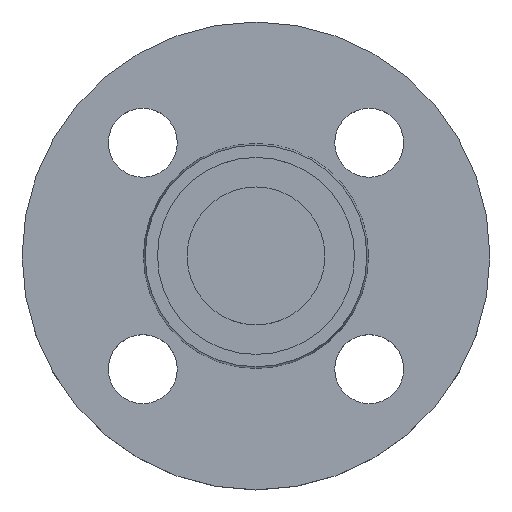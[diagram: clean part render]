
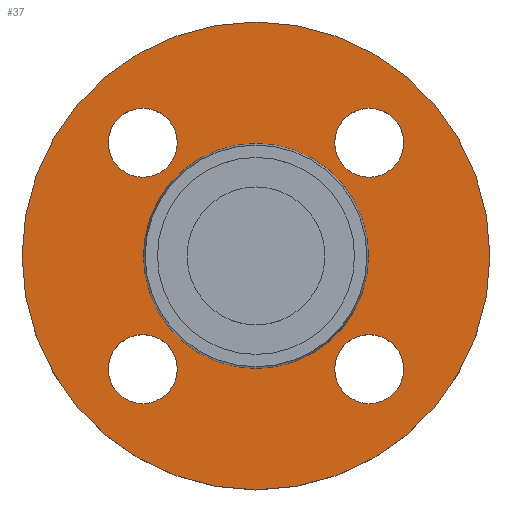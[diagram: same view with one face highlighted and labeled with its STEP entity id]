
A CAD part, top view. The second image highlights one B-rep face of the part: STEP entity #37.
In plain terms, the highlighted planar face has unit normal (0, 0, 1).
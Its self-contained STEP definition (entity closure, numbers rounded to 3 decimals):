
#8 = AXIS2_PLACEMENT_3D ( 'NONE', #130, #97, #99 ) ;
#10 = AXIS2_PLACEMENT_3D ( 'NONE', #493, #494, #495 ) ;
#20 = EDGE_CURVE ( 'NONE', #408, #382, #96, .T. ) ;
#24 = CIRCLE ( 'NONE', #59, 47.5 ) ;
#26 = EDGE_CURVE ( 'NONE', #427, #403, #64, .T. ) ;
#37 = ADVANCED_FACE ( 'NONE', ( #509, #510, #511, #512, #513, #515 ), #516, .T. ) ;
#39 = CIRCLE ( 'NONE', #662, 22.853 ) ;
#50 = AXIS2_PLACEMENT_3D ( 'NONE', #125, #126, #127 ) ;
#54 = AXIS2_PLACEMENT_3D ( 'NONE', #570, #571, #572 ) ;
#59 = AXIS2_PLACEMENT_3D ( 'NONE', #120, #122, #123 ) ;
#64 = CIRCLE ( 'NONE', #10, 7. ) ;
#66 = EDGE_CURVE ( 'NONE', #446, #305, #39, .T. ) ;
#77 = DIRECTION ( 'NONE',  ( 1., 0., 0. ) ) ;
#79 = CARTESIAN_POINT ( 'NONE',  ( -22.981, -22.981, -2. ) ) ;
#81 = DIRECTION ( 'NONE',  ( 0., 0., -1. ) ) ;
#96 = CIRCLE ( 'NONE', #121, 7. ) ;
#97 = DIRECTION ( 'NONE',  ( 0., 0., -1. ) ) ;
#99 = DIRECTION ( 'NONE',  ( 1., 0., 0. ) ) ;
#103 = AXIS2_PLACEMENT_3D ( 'NONE', #676, #303, #363 ) ;
#110 = EDGE_CURVE ( 'NONE', #429, #115, #596, .T. ) ;
#113 = AXIS2_PLACEMENT_3D ( 'NONE', #630, #631, #632 ) ;
#114 = CIRCLE ( 'NONE', #103, 7. ) ;
#115 = VERTEX_POINT ( 'NONE', #573 ) ;
#120 = CARTESIAN_POINT ( 'NONE',  ( 0., 0., -2. ) ) ;
#121 = AXIS2_PLACEMENT_3D ( 'NONE', #477, #478, #480 ) ;
#122 = DIRECTION ( 'NONE',  ( 0., 0., -1. ) ) ;
#123 = DIRECTION ( 'NONE',  ( -1., 0., 0. ) ) ;
#125 = CARTESIAN_POINT ( 'NONE',  ( 22.981, -22.981, -2. ) ) ;
#126 = DIRECTION ( 'NONE',  ( 0., 0., -1. ) ) ;
#127 = DIRECTION ( 'NONE',  ( 1., 0., 0. ) ) ;
#130 = CARTESIAN_POINT ( 'NONE',  ( -22.981, 22.981, -2. ) ) ;
#140 = EDGE_CURVE ( 'NONE', #305, #446, #148, .T. ) ;
#148 = CIRCLE ( 'NONE', #609, 22.853 ) ;
#151 = CARTESIAN_POINT ( 'NONE',  ( 15.981, 22.981, -2. ) ) ;
#165 = CARTESIAN_POINT ( 'NONE',  ( -15.981, -22.981, -2. ) ) ;
#167 = CARTESIAN_POINT ( 'NONE',  ( 29.981, 22.981, -2. ) ) ;
#172 = CARTESIAN_POINT ( 'NONE',  ( -29.981, 22.981, -2. ) ) ;
#176 = CARTESIAN_POINT ( 'NONE',  ( -29.981, -22.981, -2. ) ) ;
#177 = CARTESIAN_POINT ( 'NONE',  ( 29.981, -22.981, -2. ) ) ;
#181 = CARTESIAN_POINT ( 'NONE',  ( -15.981, 22.981, -2. ) ) ;
#182 = CARTESIAN_POINT ( 'NONE',  ( -22.981, 22.981, -2. ) ) ;
#183 = DIRECTION ( 'NONE',  ( 0., 0., -1. ) ) ;
#184 = DIRECTION ( 'NONE',  ( 1., 0., 0. ) ) ;
#202 = CARTESIAN_POINT ( 'NONE',  ( 22.853, 0., -2. ) ) ;
#242 = EDGE_CURVE ( 'NONE', #250, #264, #548, .T. ) ;
#250 = VERTEX_POINT ( 'NONE', #635 ) ;
#260 = EDGE_LOOP ( 'NONE', ( #317, #278 ) ) ;
#264 = VERTEX_POINT ( 'NONE', #645 ) ;
#278 = ORIENTED_EDGE ( 'NONE', *, *, #358, .F. ) ;
#279 = CIRCLE ( 'NONE', #50, 7. ) ;
#303 = DIRECTION ( 'NONE',  ( 0., 0., -1. ) ) ;
#305 = VERTEX_POINT ( 'NONE', #653 ) ;
#317 = ORIENTED_EDGE ( 'NONE', *, *, #242, .F. ) ;
#319 = ORIENTED_EDGE ( 'NONE', *, *, #66, .T. ) ;
#320 = ORIENTED_EDGE ( 'NONE', *, *, #140, .T. ) ;
#322 = ORIENTED_EDGE ( 'NONE', *, *, #610, .T. ) ;
#323 = ORIENTED_EDGE ( 'NONE', *, *, #20, .T. ) ;
#324 = ORIENTED_EDGE ( 'NONE', *, *, #435, .T. ) ;
#325 = ORIENTED_EDGE ( 'NONE', *, *, #663, .T. ) ;
#326 = ORIENTED_EDGE ( 'NONE', *, *, #26, .T. ) ;
#327 = ORIENTED_EDGE ( 'NONE', *, *, #468, .T. ) ;
#329 = ORIENTED_EDGE ( 'NONE', *, *, #371, .T. ) ;
#330 = ORIENTED_EDGE ( 'NONE', *, *, #110, .T. ) ;
#353 = AXIS2_PLACEMENT_3D ( 'NONE', #518, #519, #520 ) ;
#354 = AXIS2_PLACEMENT_3D ( 'NONE', #79, #81, #77 ) ;
#358 = EDGE_CURVE ( 'NONE', #264, #250, #24, .T. ) ;
#363 = DIRECTION ( 'NONE',  ( 1., 0., 0. ) ) ;
#366 = EDGE_LOOP ( 'NONE', ( #330, #329 ) ) ;
#371 = EDGE_CURVE ( 'NONE', #115, #429, #279, .T. ) ;
#382 = VERTEX_POINT ( 'NONE', #151 ) ;
#403 = VERTEX_POINT ( 'NONE', #165 ) ;
#405 = EDGE_LOOP ( 'NONE', ( #325, #324 ) ) ;
#408 = VERTEX_POINT ( 'NONE', #167 ) ;
#409 = EDGE_LOOP ( 'NONE', ( #320, #319 ) ) ;
#410 = EDGE_LOOP ( 'NONE', ( #327, #326 ) ) ;
#421 = VERTEX_POINT ( 'NONE', #172 ) ;
#426 = EDGE_LOOP ( 'NONE', ( #323, #322 ) ) ;
#427 = VERTEX_POINT ( 'NONE', #176 ) ;
#429 = VERTEX_POINT ( 'NONE', #177 ) ;
#434 = VERTEX_POINT ( 'NONE', #181 ) ;
#435 = EDGE_CURVE ( 'NONE', #421, #434, #575, .T. ) ;
#446 = VERTEX_POINT ( 'NONE', #202 ) ;
#468 = EDGE_CURVE ( 'NONE', #403, #427, #569, .T. ) ;
#477 = CARTESIAN_POINT ( 'NONE',  ( 22.981, 22.981, -2. ) ) ;
#478 = DIRECTION ( 'NONE',  ( 0., 0., -1. ) ) ;
#480 = DIRECTION ( 'NONE',  ( 1., 0., 0. ) ) ;
#493 = CARTESIAN_POINT ( 'NONE',  ( -22.981, -22.981, -2. ) ) ;
#494 = DIRECTION ( 'NONE',  ( 0., 0., -1. ) ) ;
#495 = DIRECTION ( 'NONE',  ( 1., 0., 0. ) ) ;
#507 = CIRCLE ( 'NONE', #8, 7. ) ;
#509 = FACE_BOUND ( 'NONE', #366, .T. ) ;
#510 = FACE_BOUND ( 'NONE', #410, .T. ) ;
#511 = FACE_BOUND ( 'NONE', #405, .T. ) ;
#512 = FACE_BOUND ( 'NONE', #426, .T. ) ;
#513 = FACE_BOUND ( 'NONE', #409, .T. ) ;
#515 = FACE_OUTER_BOUND ( 'NONE', #260, .T. ) ;
#516 = PLANE ( 'NONE',  #353 ) ;
#518 = CARTESIAN_POINT ( 'NONE',  ( 22.853, 0., -2. ) ) ;
#519 = DIRECTION ( 'NONE',  ( 0., 0., 1. ) ) ;
#520 = DIRECTION ( 'NONE',  ( 1., 0., 0. ) ) ;
#541 = CARTESIAN_POINT ( 'NONE',  ( 0., 0., -2. ) ) ;
#543 = DIRECTION ( 'NONE',  ( 0., 0., -1. ) ) ;
#544 = DIRECTION ( 'NONE',  ( -1., 0., 0. ) ) ;
#548 = CIRCLE ( 'NONE', #113, 47.5 ) ;
#559 = AXIS2_PLACEMENT_3D ( 'NONE', #182, #183, #184 ) ;
#569 = CIRCLE ( 'NONE', #354, 7. ) ;
#570 = CARTESIAN_POINT ( 'NONE',  ( 22.981, -22.981, -2. ) ) ;
#571 = DIRECTION ( 'NONE',  ( 0., 0., -1. ) ) ;
#572 = DIRECTION ( 'NONE',  ( 1., 0., 0. ) ) ;
#573 = CARTESIAN_POINT ( 'NONE',  ( 15.981, -22.981, -2. ) ) ;
#575 = CIRCLE ( 'NONE', #559, 7. ) ;
#581 = CARTESIAN_POINT ( 'NONE',  ( 0., 0., -2. ) ) ;
#582 = DIRECTION ( 'NONE',  ( 0., 0., -1. ) ) ;
#583 = DIRECTION ( 'NONE',  ( -1., 0., 0. ) ) ;
#596 = CIRCLE ( 'NONE', #54, 7. ) ;
#609 = AXIS2_PLACEMENT_3D ( 'NONE', #581, #582, #583 ) ;
#610 = EDGE_CURVE ( 'NONE', #382, #408, #114, .T. ) ;
#630 = CARTESIAN_POINT ( 'NONE',  ( 0., 0., -2. ) ) ;
#631 = DIRECTION ( 'NONE',  ( 0., 0., -1. ) ) ;
#632 = DIRECTION ( 'NONE',  ( -1., 0., 0. ) ) ;
#635 = CARTESIAN_POINT ( 'NONE',  ( 47.5, 0., -2. ) ) ;
#645 = CARTESIAN_POINT ( 'NONE',  ( -47.5, 0., -2. ) ) ;
#653 = CARTESIAN_POINT ( 'NONE',  ( -22.853, 0., -2. ) ) ;
#662 = AXIS2_PLACEMENT_3D ( 'NONE', #541, #543, #544 ) ;
#663 = EDGE_CURVE ( 'NONE', #434, #421, #507, .T. ) ;
#676 = CARTESIAN_POINT ( 'NONE',  ( 22.981, 22.981, -2. ) ) ;
